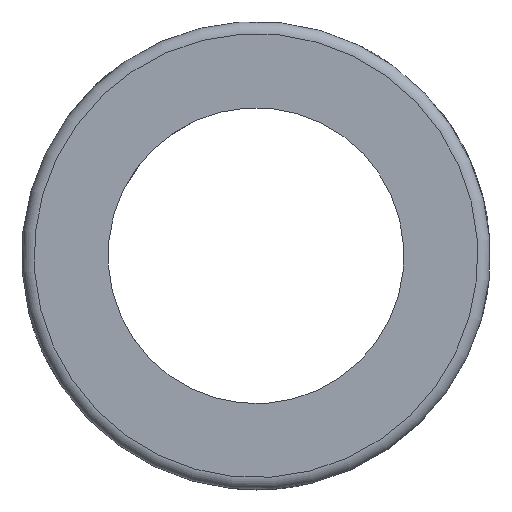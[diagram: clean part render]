
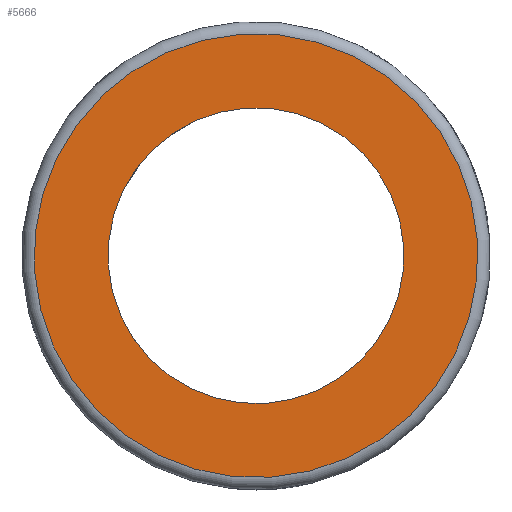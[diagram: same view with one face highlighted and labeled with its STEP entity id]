
A CAD part, left-side view. The second image highlights one B-rep face of the part: STEP entity #5666.
In plain terms, the highlighted planar face has unit normal (-1, 0, 0).
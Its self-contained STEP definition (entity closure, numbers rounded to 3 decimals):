
#122=PLANE('',#6098);
#1764=ORIENTED_EDGE('',*,*,#3479,.T.);
#1765=ORIENTED_EDGE('',*,*,#3464,.T.);
#3464=EDGE_CURVE('',#4321,#4321,#4698,.T.);
#3479=EDGE_CURVE('',#4336,#4336,#4701,.F.);
#4321=VERTEX_POINT('',#8812);
#4336=VERTEX_POINT('',#8868);
#4698=CIRCLE('',#6094,6.);
#4701=CIRCLE('',#6099,9.);
#4836=EDGE_LOOP('',(#1764));
#4837=EDGE_LOOP('',(#1765));
#5245=FACE_BOUND('',#4836,.T.);
#5246=FACE_BOUND('',#4837,.T.);
#5666=ADVANCED_FACE('',(#5245,#5246),#122,.F.);
#6094=AXIS2_PLACEMENT_3D('',#8811,#6675,#6676);
#6098=AXIS2_PLACEMENT_3D('',#8866,#6689,#6690);
#6099=AXIS2_PLACEMENT_3D('',#8867,#6691,#6692);
#6675=DIRECTION('',(1.,0.,0.));
#6676=DIRECTION('',(0.,0.588,-0.809));
#6689=DIRECTION('',(1.,0.,0.));
#6690=DIRECTION('',(0.,0.588,-0.809));
#6691=DIRECTION('',(1.,0.,0.));
#6692=DIRECTION('',(0.,0.588,-0.809));
#8811=CARTESIAN_POINT('',(-14.,0.,0.));
#8812=CARTESIAN_POINT('',(-14.,3.527,-4.854));
#8866=CARTESIAN_POINT('',(-14.,0.,0.));
#8867=CARTESIAN_POINT('',(-14.,0.,0.));
#8868=CARTESIAN_POINT('',(-14.,5.29,-7.281));
